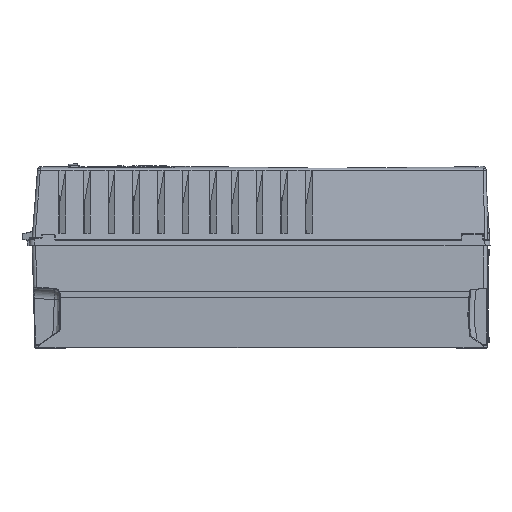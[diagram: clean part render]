
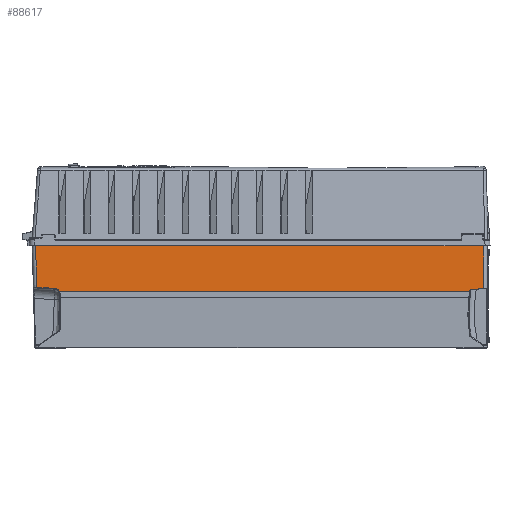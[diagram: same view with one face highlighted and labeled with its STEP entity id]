
A CAD part, left-side view. The second image highlights one B-rep face of the part: STEP entity #88617.
In plain terms, the highlighted planar face has unit normal (-1, 0, 0.024).
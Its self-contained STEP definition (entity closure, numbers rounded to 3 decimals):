
#1614=CARTESIAN_POINT('',(-119.098,318.091,
-2.488));
#1659=DIRECTION('',(0.001,0.998,0.061));
#1660=VECTOR('',#1659,25.514);
#1661=CARTESIAN_POINT('',(-120.645,291.007,
-65.824));
#1662=LINE('',#1661,#1660);
#1663=DIRECTION('',(0.024,0.026,0.999));
#1664=VECTOR('',#1663,61.818);
#1665=CARTESIAN_POINT('',(-120.607,316.473,
-64.266));
#1666=LINE('',#1665,#1664);
#1667=DIRECTION('',(0.,1.,0.));
#1668=VECTOR('',#1667,636.291);
#1669=CARTESIAN_POINT('',(-119.098,-318.2,
-2.488));
#1670=LINE('',#1669,#1668);
#1671=DIRECTION('',(-0.024,0.,-1.));
#1672=VECTOR('',#1671,63.825);
#1673=CARTESIAN_POINT('',(-119.098,-318.2,
-2.488));
#1674=LINE('',#1673,#1672);
#1675=CARTESIAN_POINT('',(-120.75,-297.88,
-70.105));
#1676=CARTESIAN_POINT('',(-120.75,-297.9,
-70.096));
#1677=CARTESIAN_POINT('',(-120.749,-297.936,
-70.069));
#1678=CARTESIAN_POINT('',(-120.747,-297.977,
-69.985));
#1679=CARTESIAN_POINT('',(-120.745,-298.011,
-69.906));
#1680=CARTESIAN_POINT('',(-120.743,-298.044,
-69.818));
#1681=CARTESIAN_POINT('',(-120.741,-298.077,
-69.725));
#1682=CARTESIAN_POINT('',(-120.738,-298.11,
-69.622));
#1683=CARTESIAN_POINT('',(-120.735,-298.145,
-69.508));
#1684=CARTESIAN_POINT('',(-120.732,-298.182,
-69.381));
#1685=CARTESIAN_POINT('',(-120.729,-298.221,
-69.242));
#1686=CARTESIAN_POINT('',(-120.725,-298.262,
-69.091));
#1687=CARTESIAN_POINT('',(-120.721,-298.304,
-68.931));
#1688=CARTESIAN_POINT('',(-120.717,-298.348,
-68.762));
#1689=CARTESIAN_POINT('',(-120.713,-298.392,
-68.587));
#1690=CARTESIAN_POINT('',(-120.708,-298.436,
-68.407));
#1691=CARTESIAN_POINT('',(-120.704,-298.481,
-68.223));
#1692=CARTESIAN_POINT('',(-120.699,-298.526,
-68.038));
#1693=CARTESIAN_POINT('',(-120.695,-298.57,
-67.853));
#1694=CARTESIAN_POINT('',(-120.69,-298.613,
-67.669));
#1695=CARTESIAN_POINT('',(-120.688,-298.641,
-67.549));
#1696=CARTESIAN_POINT('',(-120.686,-298.655,
-67.489));
#1698=DIRECTION('',(0.,1.,0.));
#1699=VECTOR('',#1698,582.019);
#1700=CARTESIAN_POINT('',(-120.75,-297.88,
-70.105));
#1701=LINE('',#1700,#1699);
#1702=CARTESIAN_POINT('',(-120.75,284.139,
-70.107));
#1703=CARTESIAN_POINT('',(-120.735,284.492,
-69.488));
#1704=CARTESIAN_POINT('',(-120.708,285.316,
-68.372));
#1705=CARTESIAN_POINT('',(-120.675,286.976,
-67.022));
#1706=CARTESIAN_POINT('',(-120.653,288.916,
-66.128));
#1707=CARTESIAN_POINT('',(-120.646,290.29,
-65.868));
#1708=CARTESIAN_POINT('',(-120.645,291.007,
-65.824));
#3134=CARTESIAN_POINT('',(-120.75,-297.88,
-70.105));
#3156=CARTESIAN_POINT('',(-120.686,-298.655,
-67.489));
#3215=DIRECTION('',(0.001,-0.998,0.061));
#3216=VECTOR('',#3215,19.582);
#3217=CARTESIAN_POINT('',(-120.686,-298.655,
-67.489));
#3218=LINE('',#3217,#3216);
#3223=CARTESIAN_POINT('',(-120.657,-318.2,-66.294));
#73114=VERTEX_POINT('',#1614);
#73116=CARTESIAN_POINT('',(-119.098,-318.2,
-2.488));
#73117=VERTEX_POINT('',#73116);
#73489=VERTEX_POINT('',#3134);
#73589=CARTESIAN_POINT('',(-120.645,291.007,
-65.824));
#73590=CARTESIAN_POINT('',(-120.607,316.473,
-64.266));
#73591=VERTEX_POINT('',#73589);
#73592=VERTEX_POINT('',#73590);
#73644=VERTEX_POINT('',#3156);
#77341=VERTEX_POINT('',#3223);
#77349=VERTEX_POINT('',#1702);
#88597=CARTESIAN_POINT('',(-120.75,-323.,-70.105));
#88598=DIRECTION('',(-1.,0.,0.024));
#88599=DIRECTION('',(0.024,0.,1.));
#88600=AXIS2_PLACEMENT_3D('',#88597,#88598,#88599);
#88601=PLANE('',#88600);
#88602=ORIENTED_EDGE('',*,*,#88590,.T.);
#88603=ORIENTED_EDGE('',*,*,#88487,.T.);
#88604=ORIENTED_EDGE('',*,*,#88209,.F.);
#88606=ORIENTED_EDGE('',*,*,#88605,.T.);
#88608=ORIENTED_EDGE('',*,*,#88607,.F.);
#88610=ORIENTED_EDGE('',*,*,#88609,.F.);
#88612=ORIENTED_EDGE('',*,*,#88611,.T.);
#88614=ORIENTED_EDGE('',*,*,#88613,.T.);
#88615=EDGE_LOOP('',(#88602,#88603,#88604,#88606,#88608,#88610,#88612,#88614));
#88616=FACE_OUTER_BOUND('',#88615,.F.);
#1697=B_SPLINE_CURVE_WITH_KNOTS('',3,(#1675,#1676,#1677,#1678,#1679,#1680,#1681,
#1682,#1683,#1684,#1685,#1686,#1687,#1688,#1689,#1690,#1691,#1692,#1693,#1694,
#1695,#1696),.UNSPECIFIED.,.F.,.F.,(4,1,1,1,1,1,1,1,1,1,1,1,1,1,1,1,1,1,1,4),(
0.,0.053,0.105,0.158,0.211,
0.263,0.316,0.368,0.421,
0.474,0.526,0.579,0.632,
0.684,0.737,0.789,0.842,
0.895,0.947,1.),.UNSPECIFIED.);
#1709=B_SPLINE_CURVE_WITH_KNOTS('',3,(#1702,#1703,#1704,#1705,#1706,#1707,
#1708),.UNSPECIFIED.,.F.,.F.,(4,1,1,1,4),(0.,0.25,0.5,0.75,1.),
.UNSPECIFIED.);
#88209=EDGE_CURVE('',#73117,#73114,#1670,.T.);
#88487=EDGE_CURVE('',#73592,#73114,#1666,.T.);
#88590=EDGE_CURVE('',#73591,#73592,#1662,.T.);
#88605=EDGE_CURVE('',#73117,#77341,#1674,.T.);
#88607=EDGE_CURVE('',#73644,#77341,#3218,.T.);
#88609=EDGE_CURVE('',#73489,#73644,#1697,.T.);
#88611=EDGE_CURVE('',#73489,#77349,#1701,.T.);
#88613=EDGE_CURVE('',#77349,#73591,#1709,.T.);
#88617=ADVANCED_FACE('',(#88616),#88601,.T.);
